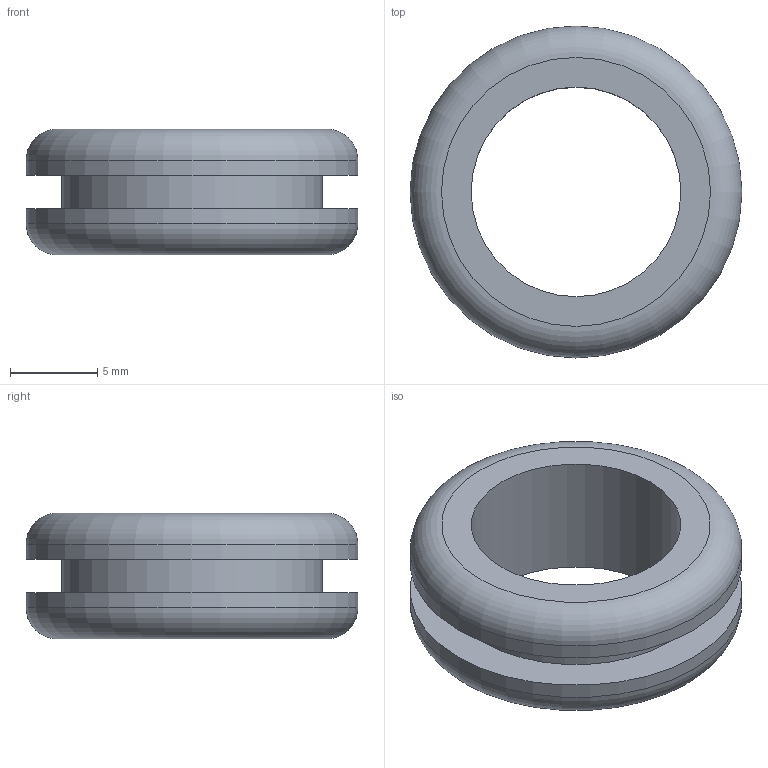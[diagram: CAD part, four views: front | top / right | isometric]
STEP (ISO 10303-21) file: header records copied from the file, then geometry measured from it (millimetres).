
FILE_DESCRIPTION(/* description */ ('','CAx-IF Rec.Pracs.---Representation and Presentation of Product Manufacturing Information (PMI)---4.0---2014-10-13'),/* implementation_level */ '2;1');
FILE_NAME(/* name */ '2911-0014-0003-REV0.step',/* time_stamp */ '2025-01-20T14:31:29-06:00',/* author */ (''),/* organization */ (''),/* preprocessor_version */ 'ST-DEVELOPER v20',/* originating_system */ 'Autodesk Translation Framework v13.20.0.188',/* authorisation */ '');
FILE_SCHEMA (('AP242_MANAGED_MODEL_BASED_3D_ENGINEERING_MIM_LF { 1 0 10303 442 1 1 4 }'));
Length unit declared in the file: millimetre
Products named in the file (1): 2911-0014-0003_source
Bounding box: 19 x 19 x 7.2 mm (x, y, z)
Volume: 940.2 mm3; surface area: 1140.8 mm2
Topology: 1 solids, 1 shells, 10 faces, 16 edges, 10 vertices
Faces by surface type: plane 4, cylinder 4, torus 2
Full cylindrical faces by diameter (mm): 12 x1, 14.9 x1, 19 x2
Entity records: 280 total; most frequent: DIRECTION 50, CARTESIAN_POINT 37, ORIENTED_EDGE 32, AXIS2_PLACEMENT_3D 23, EDGE_CURVE 16, EDGE_LOOP 14, CIRCLE 12, FACE_OUTER_BOUND 10
